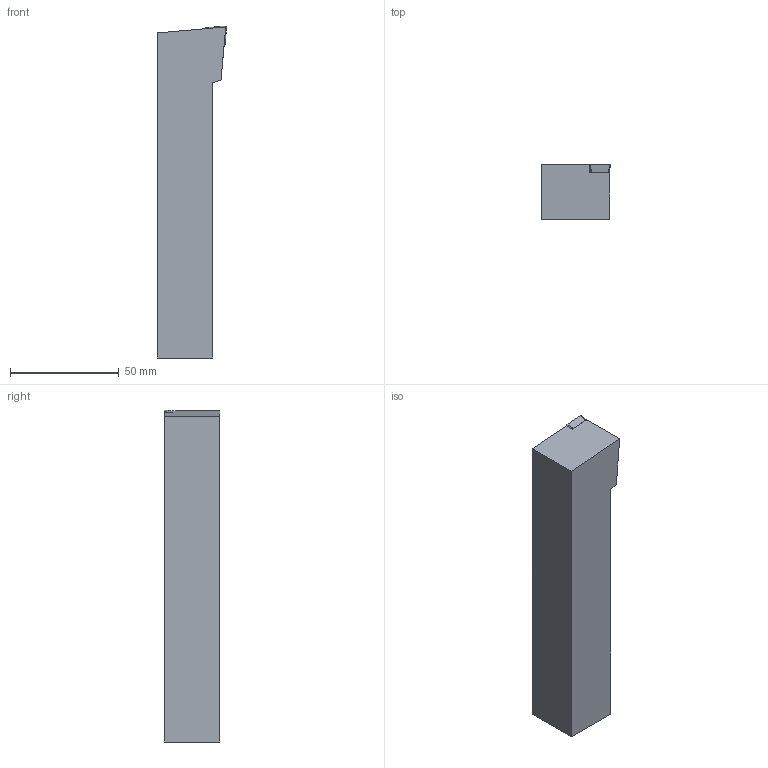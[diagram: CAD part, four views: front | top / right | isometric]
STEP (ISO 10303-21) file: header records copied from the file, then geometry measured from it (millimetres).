
FILE_DESCRIPTION (( 'STEP AP203' ), '1' );
FILE_NAME ('SCLCR16-3D-HAAS.STEP', '2020-11-06T06:46:56', ( '' ), ( '' ), 'SwSTEP 2.0', 'SolidWorks 2015', '' );
FILE_SCHEMA (( 'CONFIG_CONTROL_DESIGN' ));
Length unit declared in the file: millimetre
Products named in the file (4): CCMT09T304_ル遽; SCLCR16-3D-HAAS; SCLCR16-3D-HAAS_ル遽
Assembly tree (3 placements, depth 3):
  SCLCR16-3D-HAAS
    SCLCR16-3D-HAAS
      SCLCR16-3D-HAAS_ル遽
      CCMT09T304_ル遽
Bounding box: 31.75 x 25.4 x 152.39 mm (x, y, z)
Volume: 99975 mm3; surface area: 17375.8 mm2
Topology: 2 solids, 2 shells, 23 faces, 56 edges, 37 vertices
Faces by surface type: plane 17, cylinder 5, cone 1
Full cylindrical faces by diameter (mm): 3.4 x1
Entity records: 1077 total; most frequent: CARTESIAN_POINT 145, DIRECTION 109, ORIENTED_EDGE 108, EDGE_CURVE 54, LINE 43, VECTOR 43, VERTEX_POINT 37, PERSON_AND_ORGANIZATION 35
